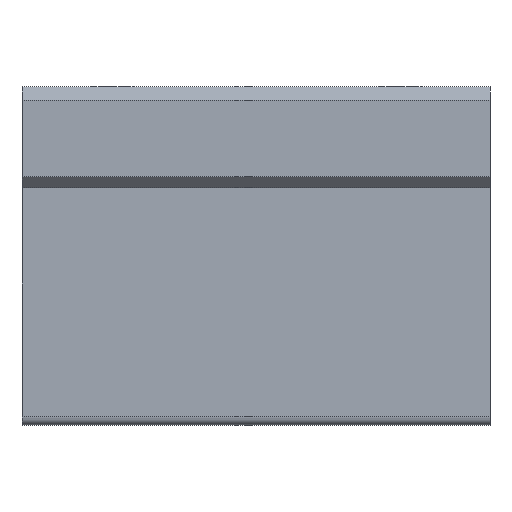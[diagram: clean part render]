
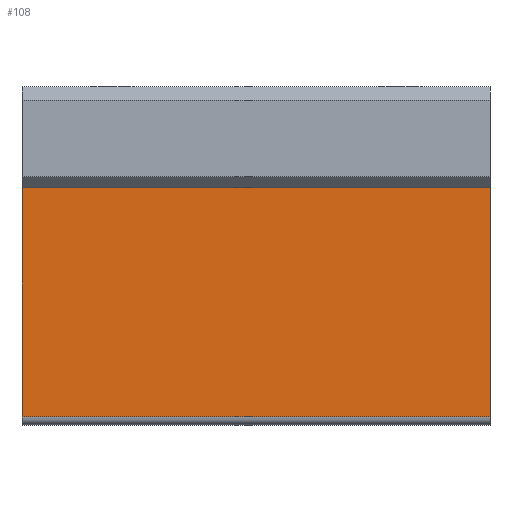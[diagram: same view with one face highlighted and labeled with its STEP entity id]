
A CAD part, front view. The second image highlights one B-rep face of the part: STEP entity #108.
In plain terms, the highlighted planar face has unit normal (0, -1, 0).
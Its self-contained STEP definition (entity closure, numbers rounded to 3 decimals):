
#108 = ADVANCED_FACE( '', ( #241 ), #242, .T. );
#241 = FACE_OUTER_BOUND( '', #394, .T. );
#242 = PLANE( '', #395 );
#394 = EDGE_LOOP( '', ( #629, #630, #631, #632 ) );
#395 = AXIS2_PLACEMENT_3D( '', #633, #634, #635 );
#629 = ORIENTED_EDGE( '', *, *, #843, .T. );
#630 = ORIENTED_EDGE( '', *, *, #871, .T. );
#631 = ORIENTED_EDGE( '', *, *, #897, .T. );
#632 = ORIENTED_EDGE( '', *, *, #898, .F. );
#633 = CARTESIAN_POINT( '', ( 0., -28.5, -20. ) );
#634 = DIRECTION( '', ( 0., -1., 0. ) );
#635 = DIRECTION( '', ( 1., 0., 0. ) );
#843 = EDGE_CURVE( '', #997, #995, #998, .T. );
#871 = EDGE_CURVE( '', #995, #1041, #1043, .T. );
#897 = EDGE_CURVE( '', #1041, #1078, #1079, .T. );
#898 = EDGE_CURVE( '', #997, #1078, #1080, .T. );
#995 = VERTEX_POINT( '', #1201 );
#997 = VERTEX_POINT( '', #1203 );
#998 = LINE( '', #1204, #1205 );
#1041 = VERTEX_POINT( '', #1263 );
#1043 = LINE( '', #1265, #1266 );
#1078 = VERTEX_POINT( '', #1309 );
#1079 = LINE( '', #1310, #1311 );
#1080 = LINE( '', #1312, #1313 );
#1201 = CARTESIAN_POINT( '', ( 0., -28.5, -18.8 ) );
#1203 = CARTESIAN_POINT( '', ( 0., -28.5, 13. ) );
#1204 = CARTESIAN_POINT( '', ( 0., -28.5, 13. ) );
#1205 = VECTOR( '', #1437, 1000. );
#1263 = CARTESIAN_POINT( '', ( 65., -28.5, -18.8 ) );
#1265 = CARTESIAN_POINT( '', ( 0., -28.5, -18.8 ) );
#1266 = VECTOR( '', #1471, 1000. );
#1309 = CARTESIAN_POINT( '', ( 65., -28.5, 13. ) );
#1310 = CARTESIAN_POINT( '', ( 65., -28.5, -20. ) );
#1311 = VECTOR( '', #1498, 1000. );
#1312 = CARTESIAN_POINT( '', ( 0., -28.5, 13. ) );
#1313 = VECTOR( '', #1499, 1000. );
#1437 = DIRECTION( '', ( 0., 0., -1. ) );
#1471 = DIRECTION( '', ( 1., 0., 0. ) );
#1498 = DIRECTION( '', ( 0., 0., 1. ) );
#1499 = DIRECTION( '', ( 1., 0., 0. ) );
